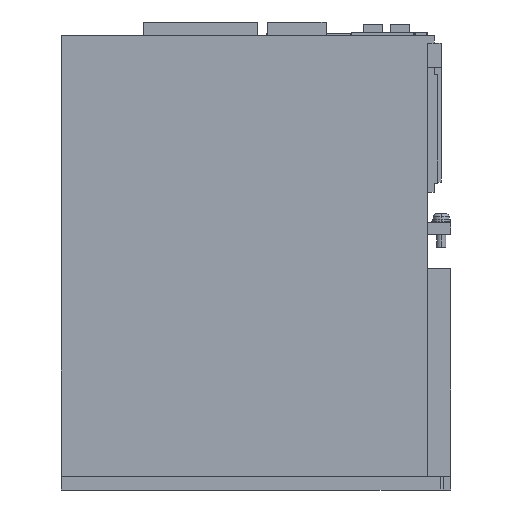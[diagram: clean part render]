
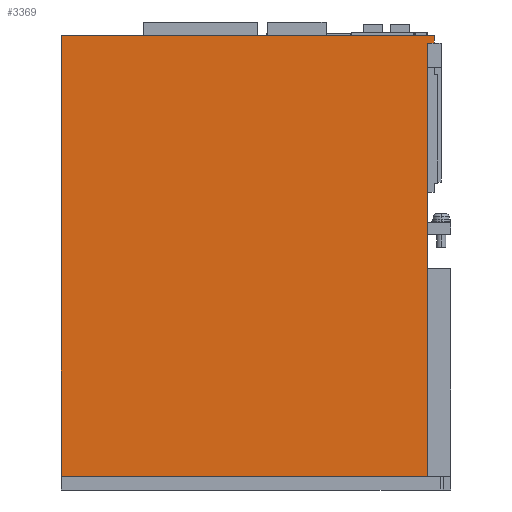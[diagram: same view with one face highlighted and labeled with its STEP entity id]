
A CAD part, left-side view. The second image highlights one B-rep face of the part: STEP entity #3369.
In plain terms, the highlighted planar face has unit normal (-1, 0, 0).
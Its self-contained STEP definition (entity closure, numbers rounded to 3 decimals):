
#956=DIRECTION('',(0.,-1.,0.));
#957=VECTOR('',#956,158.);
#958=CARTESIAN_POINT('',(-42.5,84.,0.));
#959=LINE('',#958,#957);
#1012=DIRECTION('',(0.,0.,1.));
#1013=VECTOR('',#1012,187.);
#1014=CARTESIAN_POINT('',(-42.5,-74.,0.));
#1015=LINE('',#1014,#1013);
#1020=DIRECTION('',(0.,0.,-1.));
#1021=VECTOR('',#1020,190.2);
#1022=CARTESIAN_POINT('',(-42.5,84.,190.2));
#1023=LINE('',#1022,#1021);
#1331=DIRECTION('',(0.,-1.,0.));
#1332=VECTOR('',#1331,161.);
#1333=CARTESIAN_POINT('',(-42.5,84.,190.2));
#1334=LINE('',#1333,#1332);
#1670=DIRECTION('',(0.,0.,1.));
#1671=VECTOR('',#1670,3.2);
#1672=CARTESIAN_POINT('',(-42.5,-77.,187.));
#1673=LINE('',#1672,#1671);
#2230=DIRECTION('',(0.,-1.,0.));
#2231=VECTOR('',#2230,3.);
#2232=CARTESIAN_POINT('',(-42.5,-74.,187.));
#2233=LINE('',#2232,#2231);
#2666=CARTESIAN_POINT('',(-42.5,84.,0.));
#2667=CARTESIAN_POINT('',(-42.5,-74.,0.));
#2668=VERTEX_POINT('',#2666);
#2669=VERTEX_POINT('',#2667);
#2724=CARTESIAN_POINT('',(-42.5,-74.,187.));
#2725=VERTEX_POINT('',#2724);
#2726=CARTESIAN_POINT('',(-42.5,-77.,187.));
#2727=VERTEX_POINT('',#2726);
#2866=CARTESIAN_POINT('',(-42.5,84.,190.2));
#2867=CARTESIAN_POINT('',(-42.5,-77.,190.2));
#2868=VERTEX_POINT('',#2866);
#2869=VERTEX_POINT('',#2867);
#3352=CARTESIAN_POINT('',(-42.5,84.,0.));
#3353=DIRECTION('',(-1.,0.,0.));
#3354=DIRECTION('',(0.,-1.,0.));
#3355=AXIS2_PLACEMENT_3D('',#3352,#3353,#3354);
#3356=PLANE('',#3355);
#3358=ORIENTED_EDGE('',*,*,#3357,.F.);
#3360=ORIENTED_EDGE('',*,*,#3359,.T.);
#3362=ORIENTED_EDGE('',*,*,#3361,.F.);
#3364=ORIENTED_EDGE('',*,*,#3363,.F.);
#3365=ORIENTED_EDGE('',*,*,#3322,.F.);
#3366=ORIENTED_EDGE('',*,*,#3293,.F.);
#3367=EDGE_LOOP('',(#3358,#3360,#3362,#3364,#3365,#3366));
#3368=FACE_OUTER_BOUND('',#3367,.F.);
#3369=ADVANCED_FACE('',(#3368),#3356,.T.);
#3293=EDGE_CURVE('',#2668,#2669,#959,.T.);
#3322=EDGE_CURVE('',#2669,#2725,#1015,.T.);
#3357=EDGE_CURVE('',#2868,#2668,#1023,.T.);
#3359=EDGE_CURVE('',#2868,#2869,#1334,.T.);
#3361=EDGE_CURVE('',#2727,#2869,#1673,.T.);
#3363=EDGE_CURVE('',#2725,#2727,#2233,.T.);
